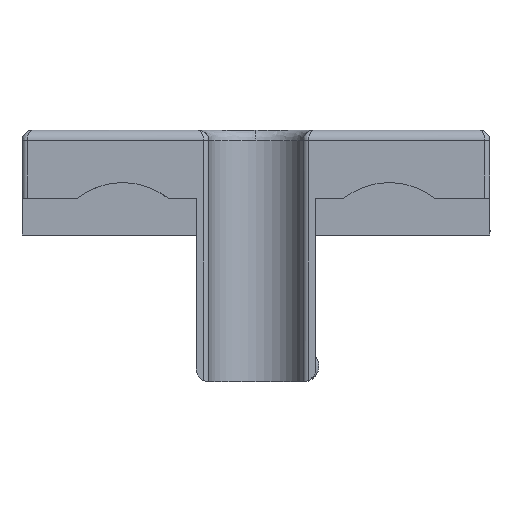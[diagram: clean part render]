
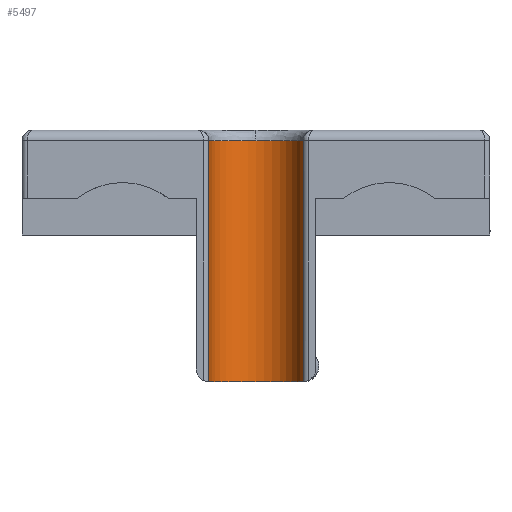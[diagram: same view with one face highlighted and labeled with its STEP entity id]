
A CAD part, front view. The second image highlights one B-rep face of the part: STEP entity #5497.
In plain terms, the highlighted cylindrical face has radius 4.5 mm (diameter 9 mm), a partial arc.
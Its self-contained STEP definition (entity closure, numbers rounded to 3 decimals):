
#394 = VECTOR ( 'NONE', #2343, 1000. ) ;
#402 = CARTESIAN_POINT ( 'NONE',  ( 17.8, 5., 23. ) ) ;
#435 = ORIENTED_EDGE ( 'NONE', *, *, #7258, .F. ) ;
#455 = EDGE_LOOP ( 'NONE', ( #5382, #4198, #6829, #5251, #435, #4245 ) ) ;
#548 = VERTEX_POINT ( 'NONE', #6005 ) ;
#1066 = AXIS2_PLACEMENT_3D ( 'NONE', #4110, #4597, #2262 ) ;
#1267 = EDGE_CURVE ( 'NONE', #548, #7463, #4846, .T. ) ;
#1668 = AXIS2_PLACEMENT_3D ( 'NONE', #7163, #3626, #6041 ) ;
#1844 = CARTESIAN_POINT ( 'NONE',  ( 26.8, 5., 23. ) ) ;
#2252 = VERTEX_POINT ( 'NONE', #1844 ) ;
#2262 = DIRECTION ( 'NONE',  ( 0., -1., 0. ) ) ;
#2343 = DIRECTION ( 'NONE',  ( 0., 0., -1. ) ) ;
#2414 = CARTESIAN_POINT ( 'NONE',  ( 22.3, 5., 14. ) ) ;
#3018 = AXIS2_PLACEMENT_3D ( 'NONE', #3532, #4870, #7289 ) ;
#3326 = CARTESIAN_POINT ( 'NONE',  ( 22.3, 9.5, 0. ) ) ;
#3332 = CARTESIAN_POINT ( 'NONE',  ( 17.8, 5., 14. ) ) ;
#3532 = CARTESIAN_POINT ( 'NONE',  ( 22.3, 5., 0. ) ) ;
#3617 = VERTEX_POINT ( 'NONE', #402 ) ;
#3626 = DIRECTION ( 'NONE',  ( 0., 0., -1. ) ) ;
#3639 = EDGE_CURVE ( 'NONE', #6441, #3617, #7023, .T. ) ;
#3795 = AXIS2_PLACEMENT_3D ( 'NONE', #4928, #6195, #5601 ) ;
#4024 = VERTEX_POINT ( 'NONE', #6887 ) ;
#4110 = CARTESIAN_POINT ( 'NONE',  ( 22.3, 5., 0. ) ) ;
#4128 = EDGE_CURVE ( 'NONE', #2252, #548, #5337, .T. ) ;
#4139 = EDGE_CURVE ( 'NONE', #3617, #4024, #5323, .T. ) ;
#4198 = ORIENTED_EDGE ( 'NONE', *, *, #4473, .F. ) ;
#4245 = ORIENTED_EDGE ( 'NONE', *, *, #1267, .F. ) ;
#4248 = VECTOR ( 'NONE', #5741, 1000. ) ;
#4473 = EDGE_CURVE ( 'NONE', #4024, #2252, #5064, .T. ) ;
#4597 = DIRECTION ( 'NONE',  ( 0., 0., 1. ) ) ;
#4674 = CARTESIAN_POINT ( 'NONE',  ( 26.8, 5., 14. ) ) ;
#4846 = CIRCLE ( 'NONE', #1066, 4.5 ) ;
#4870 = DIRECTION ( 'NONE',  ( 0., 0., 1. ) ) ;
#4928 = CARTESIAN_POINT ( 'NONE',  ( 22.3, 5., 23. ) ) ;
#5064 = CIRCLE ( 'NONE', #3795, 4.5 ) ;
#5251 = ORIENTED_EDGE ( 'NONE', *, *, #3639, .F. ) ;
#5323 = CIRCLE ( 'NONE', #1668, 4.5 ) ;
#5337 = LINE ( 'NONE', #4674, #394 ) ;
#5382 = ORIENTED_EDGE ( 'NONE', *, *, #4128, .F. ) ;
#5497 = ADVANCED_FACE ( 'NONE', ( #7835 ), #6068, .F. ) ;
#5601 = DIRECTION ( 'NONE',  ( 0., 1., 0. ) ) ;
#5741 = DIRECTION ( 'NONE',  ( 0., 0., 1. ) ) ;
#6005 = CARTESIAN_POINT ( 'NONE',  ( 26.8, 5., 0. ) ) ;
#6041 = DIRECTION ( 'NONE',  ( 0., 1., 0. ) ) ;
#6068 = CYLINDRICAL_SURFACE ( 'NONE', #6344, 4.5 ) ;
#6195 = DIRECTION ( 'NONE',  ( 0., 0., -1. ) ) ;
#6344 = AXIS2_PLACEMENT_3D ( 'NONE', #2414, #6699, #7304 ) ;
#6432 = CIRCLE ( 'NONE', #3018, 4.5 ) ;
#6441 = VERTEX_POINT ( 'NONE', #6719 ) ;
#6699 = DIRECTION ( 'NONE',  ( 0., 0., 1. ) ) ;
#6719 = CARTESIAN_POINT ( 'NONE',  ( 17.8, 5., 0. ) ) ;
#6829 = ORIENTED_EDGE ( 'NONE', *, *, #4139, .F. ) ;
#6887 = CARTESIAN_POINT ( 'NONE',  ( 22.3, 9.5, 23. ) ) ;
#7023 = LINE ( 'NONE', #3332, #4248 ) ;
#7163 = CARTESIAN_POINT ( 'NONE',  ( 22.3, 5., 23. ) ) ;
#7258 = EDGE_CURVE ( 'NONE', #7463, #6441, #6432, .T. ) ;
#7289 = DIRECTION ( 'NONE',  ( 0., -1., 0. ) ) ;
#7304 = DIRECTION ( 'NONE',  ( 0., -1., 0. ) ) ;
#7463 = VERTEX_POINT ( 'NONE', #3326 ) ;
#7835 = FACE_OUTER_BOUND ( 'NONE', #455, .T. ) ;
